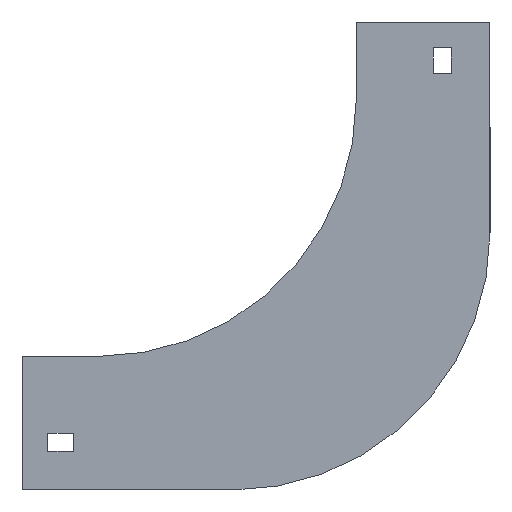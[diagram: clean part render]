
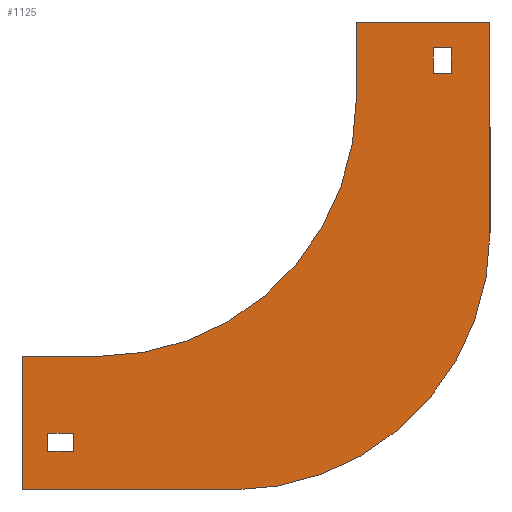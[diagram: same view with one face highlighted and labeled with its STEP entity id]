
A CAD part, left-side view. The second image highlights one B-rep face of the part: STEP entity #1125.
In plain terms, the highlighted planar face has unit normal (-1, 0, 0).
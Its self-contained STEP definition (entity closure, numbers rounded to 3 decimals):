
#1 = EDGE_CURVE ( 'NONE', #1032, #271, #1099, .T. ) ;
#2 = CARTESIAN_POINT ( 'NONE',  ( -302., 120., -167. ) ) ;
#3 = ORIENTED_EDGE ( 'NONE', *, *, #783, .F. ) ;
#17 = LINE ( 'NONE', #683, #1333 ) ;
#25 = ORIENTED_EDGE ( 'NONE', *, *, #596, .F. ) ;
#44 = DIRECTION ( 'NONE',  ( 0., 0., 1. ) ) ;
#47 = VERTEX_POINT ( 'NONE', #1154 ) ;
#54 = CARTESIAN_POINT ( 'NONE',  ( -302., 0., -30. ) ) ;
#55 = ORIENTED_EDGE ( 'NONE', *, *, #1, .F. ) ;
#62 = EDGE_CURVE ( 'NONE', #248, #1024, #291, .T. ) ;
#64 = LINE ( 'NONE', #1272, #1267 ) ;
#66 = DIRECTION ( 'NONE',  ( 0., -1., 0. ) ) ;
#76 = AXIS2_PLACEMENT_3D ( 'NONE', #358, #236, #44 ) ;
#77 = CARTESIAN_POINT ( 'NONE',  ( -302., 130., -130. ) ) ;
#78 = VECTOR ( 'NONE', #1221, 1000. ) ;
#80 = DIRECTION ( 'NONE',  ( 0., 0., -1. ) ) ;
#88 = VERTEX_POINT ( 'NONE', #511 ) ;
#102 = CARTESIAN_POINT ( 'NONE',  ( -302., -37., -10. ) ) ;
#104 = FACE_BOUND ( 'NONE', #673, .T. ) ;
#120 = VERTEX_POINT ( 'NONE', #802 ) ;
#141 = DIRECTION ( 'NONE',  ( 0., 1., 0. ) ) ;
#154 = ORIENTED_EDGE ( 'NONE', *, *, #1016, .F. ) ;
#163 = CARTESIAN_POINT ( 'NONE',  ( -302., 0., 0. ) ) ;
#169 = CARTESIAN_POINT ( 'NONE',  ( -302., 120., -160. ) ) ;
#175 = LINE ( 'NONE', #1031, #1310 ) ;
#187 = DIRECTION ( 'NONE',  ( 0., 1., 0. ) ) ;
#214 = ORIENTED_EDGE ( 'NONE', *, *, #344, .F. ) ;
#217 = AXIS2_PLACEMENT_3D ( 'NONE', #537, #746, #864 ) ;
#236 = DIRECTION ( 'NONE',  ( 1., 0., 0. ) ) ;
#239 = EDGE_LOOP ( 'NONE', ( #1101, #350, #795, #1248 ) ) ;
#248 = VERTEX_POINT ( 'NONE', #1270 ) ;
#271 = VERTEX_POINT ( 'NONE', #319 ) ;
#279 = ORIENTED_EDGE ( 'NONE', *, *, #649, .F. ) ;
#290 = LINE ( 'NONE', #169, #907 ) ;
#291 = LINE ( 'NONE', #77, #78 ) ;
#301 = EDGE_CURVE ( 'NONE', #1121, #120, #828, .T. ) ;
#303 = EDGE_CURVE ( 'NONE', #812, #966, #1345, .T. ) ;
#318 = ORIENTED_EDGE ( 'NONE', *, *, #62, .F. ) ;
#319 = CARTESIAN_POINT ( 'NONE',  ( -302., -52., 0. ) ) ;
#328 = VECTOR ( 'NONE', #1000, 1000. ) ;
#336 = EDGE_CURVE ( 'NONE', #1024, #1224, #1388, .T. ) ;
#344 = EDGE_CURVE ( 'NONE', #914, #1032, #718, .T. ) ;
#349 = LINE ( 'NONE', #698, #885 ) ;
#350 = ORIENTED_EDGE ( 'NONE', *, *, #574, .T. ) ;
#358 = CARTESIAN_POINT ( 'NONE',  ( -302., 48., -82. ) ) ;
#375 = EDGE_LOOP ( 'NONE', ( #55, #214, #1019, #438, #318, #1350, #1229, #3 ) ) ;
#436 = LINE ( 'NONE', #1277, #587 ) ;
#438 = ORIENTED_EDGE ( 'NONE', *, *, #336, .F. ) ;
#479 = VECTOR ( 'NONE', #141, 1000. ) ;
#482 = CARTESIAN_POINT ( 'NONE',  ( -302., 110., -167. ) ) ;
#491 = CARTESIAN_POINT ( 'NONE',  ( -302., 100., -30. ) ) ;
#511 = CARTESIAN_POINT ( 'NONE',  ( -302., -30., -10. ) ) ;
#537 = CARTESIAN_POINT ( 'NONE',  ( -302., 100., -30. ) ) ;
#544 = FACE_BOUND ( 'NONE', #239, .T. ) ;
#565 = CARTESIAN_POINT ( 'NONE',  ( -302., 110., -160. ) ) ;
#571 = DIRECTION ( 'NONE',  ( 0., 0., -1. ) ) ;
#574 = EDGE_CURVE ( 'NONE', #88, #696, #715, .T. ) ;
#575 = VECTOR ( 'NONE', #726, 1000. ) ;
#587 = VECTOR ( 'NONE', #1082, 1000. ) ;
#588 = AXIS2_PLACEMENT_3D ( 'NONE', #491, #1371, #80 ) ;
#596 = EDGE_CURVE ( 'NONE', #966, #598, #290, .T. ) ;
#598 = VERTEX_POINT ( 'NONE', #1043 ) ;
#603 = DIRECTION ( 'NONE',  ( 0., 0., 1. ) ) ;
#622 = CARTESIAN_POINT ( 'NONE',  ( -302., 110., -160. ) ) ;
#649 = EDGE_CURVE ( 'NONE', #598, #1140, #1170, .T. ) ;
#673 = EDGE_LOOP ( 'NONE', ( #279, #25, #703, #154 ) ) ;
#683 = CARTESIAN_POINT ( 'NONE',  ( -302., -30., -10. ) ) ;
#692 = CARTESIAN_POINT ( 'NONE',  ( -302., 130., -182. ) ) ;
#696 = VERTEX_POINT ( 'NONE', #102 ) ;
#698 = CARTESIAN_POINT ( 'NONE',  ( -302., -52., -82. ) ) ;
#703 = ORIENTED_EDGE ( 'NONE', *, *, #303, .F. ) ;
#715 = LINE ( 'NONE', #1147, #1110 ) ;
#718 = LINE ( 'NONE', #163, #807 ) ;
#726 = DIRECTION ( 'NONE',  ( 0., -1., 0. ) ) ;
#746 = DIRECTION ( 'NONE',  ( 1., 0., 0. ) ) ;
#783 = EDGE_CURVE ( 'NONE', #271, #1121, #349, .T. ) ;
#788 = CARTESIAN_POINT ( 'NONE',  ( -302., -52., 0. ) ) ;
#795 = ORIENTED_EDGE ( 'NONE', *, *, #1017, .T. ) ;
#802 = CARTESIAN_POINT ( 'NONE',  ( -302., 48., -182. ) ) ;
#807 = VECTOR ( 'NONE', #603, 1000. ) ;
#812 = VERTEX_POINT ( 'NONE', #482 ) ;
#828 = CIRCLE ( 'NONE', #76, 100. ) ;
#832 = CARTESIAN_POINT ( 'NONE',  ( -302., 0., 0. ) ) ;
#844 = EDGE_CURVE ( 'NONE', #1212, #88, #17, .T. ) ;
#864 = DIRECTION ( 'NONE',  ( 0., 0., -1. ) ) ;
#869 = EDGE_CURVE ( 'NONE', #120, #248, #1107, .T. ) ;
#882 = CIRCLE ( 'NONE', #588, 100. ) ;
#885 = VECTOR ( 'NONE', #571, 1000. ) ;
#907 = VECTOR ( 'NONE', #187, 1000. ) ;
#914 = VERTEX_POINT ( 'NONE', #54 ) ;
#933 = DIRECTION ( 'NONE',  ( 0., 0., -1. ) ) ;
#949 = EDGE_CURVE ( 'NONE', #1224, #914, #882, .T. ) ;
#956 = CARTESIAN_POINT ( 'NONE',  ( -302., -52., -82. ) ) ;
#962 = DIRECTION ( 'NONE',  ( 0., 0., -1. ) ) ;
#966 = VERTEX_POINT ( 'NONE', #622 ) ;
#1000 = DIRECTION ( 'NONE',  ( 0., 0., 1. ) ) ;
#1016 = EDGE_CURVE ( 'NONE', #1140, #812, #64, .T. ) ;
#1017 = EDGE_CURVE ( 'NONE', #696, #47, #175, .T. ) ;
#1019 = ORIENTED_EDGE ( 'NONE', *, *, #949, .F. ) ;
#1024 = VERTEX_POINT ( 'NONE', #1266 ) ;
#1031 = CARTESIAN_POINT ( 'NONE',  ( -302., -37., -10. ) ) ;
#1032 = VERTEX_POINT ( 'NONE', #832 ) ;
#1043 = CARTESIAN_POINT ( 'NONE',  ( -302., 120., -160. ) ) ;
#1062 = EDGE_CURVE ( 'NONE', #47, #1212, #436, .T. ) ;
#1079 = CARTESIAN_POINT ( 'NONE',  ( -302., 120., -160. ) ) ;
#1082 = DIRECTION ( 'NONE',  ( 0., 1., 0. ) ) ;
#1099 = LINE ( 'NONE', #788, #1164 ) ;
#1101 = ORIENTED_EDGE ( 'NONE', *, *, #844, .T. ) ;
#1106 = DIRECTION ( 'NONE',  ( 0., -1., 0. ) ) ;
#1107 = LINE ( 'NONE', #692, #479 ) ;
#1110 = VECTOR ( 'NONE', #66, 1000. ) ;
#1121 = VERTEX_POINT ( 'NONE', #956 ) ;
#1125 = ADVANCED_FACE ( 'NONE', ( #1176, #544, #104 ), #1298, .F. ) ;
#1126 = CARTESIAN_POINT ( 'NONE',  ( -302., 100., -130. ) ) ;
#1133 = VECTOR ( 'NONE', #962, 1000. ) ;
#1140 = VERTEX_POINT ( 'NONE', #2 ) ;
#1147 = CARTESIAN_POINT ( 'NONE',  ( -302., -30., -10. ) ) ;
#1154 = CARTESIAN_POINT ( 'NONE',  ( -302., -37., -20. ) ) ;
#1162 = DIRECTION ( 'NONE',  ( 0., -1., 0. ) ) ;
#1164 = VECTOR ( 'NONE', #1106, 1000. ) ;
#1170 = LINE ( 'NONE', #1079, #1133 ) ;
#1176 = FACE_OUTER_BOUND ( 'NONE', #375, .T. ) ;
#1212 = VERTEX_POINT ( 'NONE', #1223 ) ;
#1221 = DIRECTION ( 'NONE',  ( 0., 0., 1. ) ) ;
#1223 = CARTESIAN_POINT ( 'NONE',  ( -302., -30., -20. ) ) ;
#1224 = VERTEX_POINT ( 'NONE', #1126 ) ;
#1229 = ORIENTED_EDGE ( 'NONE', *, *, #301, .F. ) ;
#1247 = CARTESIAN_POINT ( 'NONE',  ( -302., 100., -130. ) ) ;
#1248 = ORIENTED_EDGE ( 'NONE', *, *, #1062, .T. ) ;
#1266 = CARTESIAN_POINT ( 'NONE',  ( -302., 130., -130. ) ) ;
#1267 = VECTOR ( 'NONE', #1162, 1000. ) ;
#1270 = CARTESIAN_POINT ( 'NONE',  ( -302., 130., -182. ) ) ;
#1272 = CARTESIAN_POINT ( 'NONE',  ( -302., 120., -167. ) ) ;
#1277 = CARTESIAN_POINT ( 'NONE',  ( -302., -30., -20. ) ) ;
#1298 = PLANE ( 'NONE',  #217 ) ;
#1310 = VECTOR ( 'NONE', #933, 1000. ) ;
#1321 = DIRECTION ( 'NONE',  ( 0., 0., 1. ) ) ;
#1333 = VECTOR ( 'NONE', #1321, 1000. ) ;
#1345 = LINE ( 'NONE', #565, #328 ) ;
#1350 = ORIENTED_EDGE ( 'NONE', *, *, #869, .F. ) ;
#1371 = DIRECTION ( 'NONE',  ( -1., 0., 0. ) ) ;
#1388 = LINE ( 'NONE', #1247, #575 ) ;
